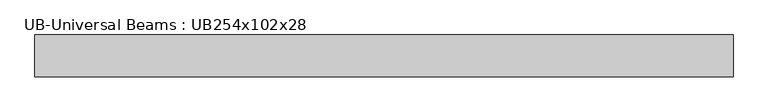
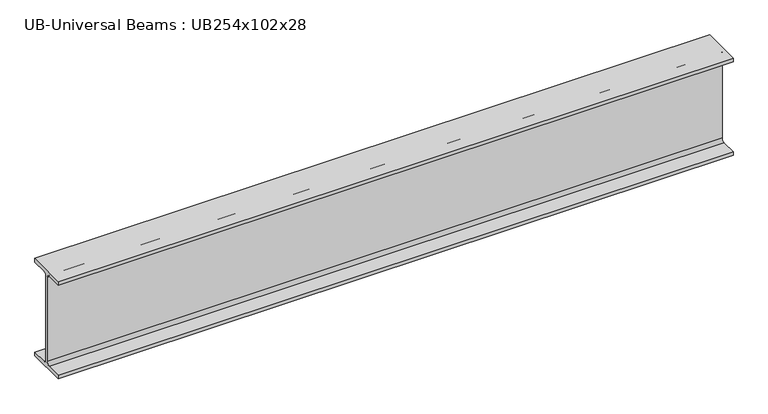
"""IFC4 building model written with IfcOpenShell, lengths in millimetres: beam geometry, UB-Universal Beams : UB254x102x28."""

from ifc_helpers import new_model, si_unit, point, frame, frame_2d, origin, place, context, project, spatial, polyline, circle_curve, trimmed, segment, composite_curve, outline, extrude, source, transform, mapped, element, save


def ub_universal_beams_ub254x102x28_1378b5d7(model_context):
    return source(origin(), model_context, "Body", "SweptSolid", [
        extrude(outline(composite_curve([segment(polyline([(51.1, -120.2), (51.1, -130.2), (-51.1, -130.2), (-51.1, -120.2), (-10.75, -120.2)]), True, "CONTINUOUS"), segment(trimmed(circle_curve(frame_2d((-10.75, -112.6)), 7.6), [point((-10.75, -120.2))], [point((-3.15, -112.6))], True, "CARTESIAN"), True, "CONTINUOUS"), segment(polyline([(-3.15, -112.6), (-3.15, 112.6)]), True, "CONTINUOUS"), segment(trimmed(circle_curve(frame_2d((-10.75, 112.6)), 7.6), [point((-3.15, 112.6))], [point((-10.75, 120.2))], True, "CARTESIAN"), True, "CONTINUOUS"), segment(polyline([(-10.75, 120.2), (-51.1, 120.2), (-51.1, 130.2), (51.1, 130.2), (51.1, 120.2), (10.75, 120.2)]), True, "CONTINUOUS"), segment(trimmed(circle_curve(frame_2d((10.75, 112.6)), 7.6), [point((10.75, 120.2))], [point((3.15, 112.6))], True, "CARTESIAN"), True, "CONTINUOUS"), segment(polyline([(3.15, 112.6), (3.15, -112.6)]), True, "CONTINUOUS"), segment(trimmed(circle_curve(frame_2d((10.75, -112.6)), 7.6), [point((3.15, -112.6))], [point((10.75, -120.2))], True, "CARTESIAN"), True, "CONTINUOUS"), segment(polyline([(10.75, -120.2), (51.1, -120.2)]), True, "CONTINUOUS")], self_intersect=False)), frame((-867.35, 0.0, 0.0), z_axis=(1.0, 0.0, 0.0), x_axis=(0.0, 1.0, 0.0)), (0.0, 0.0, 1.0), 1707.2),
    ])


if __name__ == "__main__":
    model = new_model("IFC4")
    model_context = context("Model", 3, world=origin())
    ifc_project = project(units=[si_unit("LENGTHUNIT", "METRE", prefix="MILLI")], contexts=[model_context])
    site = spatial("IfcSite", under=ifc_project)
    building = spatial("IfcBuilding", under=site)
    placement = place(None, origin())
    ub_universal_beams_ub254x102x28_shape = ub_universal_beams_ub254x102x28_1378b5d7(model_context)
    element("IfcBeam", 1, ObjectType="UB-Universal Beams : UB254x102x28", at=placement, inside=building, context=model_context, shape_type="MappedRepresentation", body=[
        mapped(ub_universal_beams_ub254x102x28_shape, transform((0.0, 0.0, 0.0), x_axis=(1.0, 0.0, 0.0), y_axis=(0.0, 1.0, 0.0), z_axis=(0.0, 0.0, 1.0))),
    ])
    save(model, "model.ifc")
